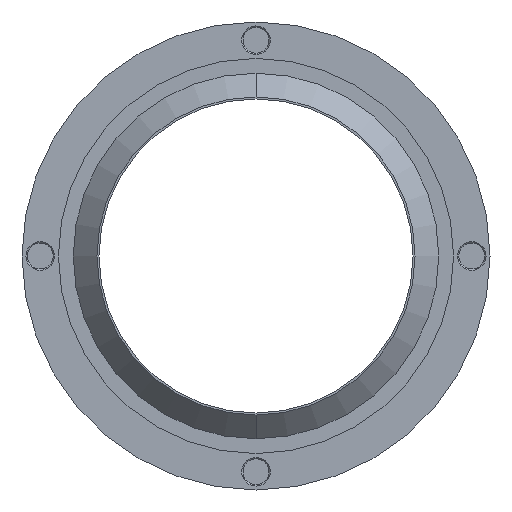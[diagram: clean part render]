
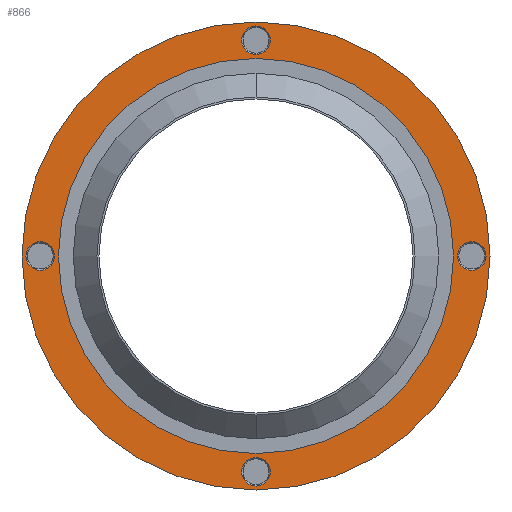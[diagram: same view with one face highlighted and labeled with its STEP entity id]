
A CAD part, front view. The second image highlights one B-rep face of the part: STEP entity #866.
In plain terms, the highlighted planar face has unit normal (0, -1, 0).
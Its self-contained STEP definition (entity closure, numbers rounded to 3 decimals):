
#15 = EDGE_CURVE ( 'NONE', #255, #1072, #990, .T. ) ;
#24 = DIRECTION ( 'NONE',  ( 0., 1., 0. ) ) ;
#31 = CARTESIAN_POINT ( 'NONE',  ( 0., 12.413, 29.125 ) ) ;
#44 = DIRECTION ( 'NONE',  ( 0., -1., 0. ) ) ;
#52 = DIRECTION ( 'NONE',  ( 0., -1., 0. ) ) ;
#54 = CIRCLE ( 'NONE', #707, 34.5 ) ;
#61 = AXIS2_PLACEMENT_3D ( 'NONE', #633, #720, #1062 ) ;
#65 = FACE_BOUND ( 'NONE', #601, .T. ) ;
#73 = VERTEX_POINT ( 'NONE', #722 ) ;
#74 = EDGE_CURVE ( 'NONE', #674, #280, #741, .T. ) ;
#82 = EDGE_CURVE ( 'NONE', #73, #794, #126, .T. ) ;
#86 = AXIS2_PLACEMENT_3D ( 'NONE', #215, #141, #591 ) ;
#97 = CARTESIAN_POINT ( 'NONE',  ( 0., 12.413, 0. ) ) ;
#100 = CIRCLE ( 'NONE', #683, 34.5 ) ;
#103 = AXIS2_PLACEMENT_3D ( 'NONE', #883, #446, #455 ) ;
#119 = CARTESIAN_POINT ( 'NONE',  ( 0., 12.413, 0. ) ) ;
#126 = CIRCLE ( 'NONE', #216, 2.1 ) ;
#141 = DIRECTION ( 'NONE',  ( 0., 1., 0. ) ) ;
#213 = DIRECTION ( 'NONE',  ( 0., 0., -1. ) ) ;
#215 = CARTESIAN_POINT ( 'NONE',  ( 31.813, 12.413, 0. ) ) ;
#216 = AXIS2_PLACEMENT_3D ( 'NONE', #728, #461, #628 ) ;
#217 = ORIENTED_EDGE ( 'NONE', *, *, #15, .T. ) ;
#223 = CIRCLE ( 'NONE', #998, 2.1 ) ;
#224 = CARTESIAN_POINT ( 'NONE',  ( 0., 12.413, 34.5 ) ) ;
#227 = CARTESIAN_POINT ( 'NONE',  ( 31.813, 12.413, -2.1 ) ) ;
#230 = VERTEX_POINT ( 'NONE', #304 ) ;
#239 = ORIENTED_EDGE ( 'NONE', *, *, #766, .F. ) ;
#242 = VERTEX_POINT ( 'NONE', #994 ) ;
#255 = VERTEX_POINT ( 'NONE', #227 ) ;
#257 = ORIENTED_EDGE ( 'NONE', *, *, #1101, .F. ) ;
#267 = EDGE_CURVE ( 'NONE', #315, #242, #100, .T. ) ;
#274 = AXIS2_PLACEMENT_3D ( 'NONE', #1036, #693, #425 ) ;
#280 = VERTEX_POINT ( 'NONE', #669 ) ;
#290 = DIRECTION ( 'NONE',  ( 0., 0., -1. ) ) ;
#304 = CARTESIAN_POINT ( 'NONE',  ( -31.813, 12.413, -2.1 ) ) ;
#306 = CIRCLE ( 'NONE', #935, 29.125 ) ;
#315 = VERTEX_POINT ( 'NONE', #224 ) ;
#324 = DIRECTION ( 'NONE',  ( 0., 1., 0. ) ) ;
#330 = ORIENTED_EDGE ( 'NONE', *, *, #427, .T. ) ;
#407 = ORIENTED_EDGE ( 'NONE', *, *, #514, .T. ) ;
#415 = FACE_BOUND ( 'NONE', #587, .T. ) ;
#417 = CIRCLE ( 'NONE', #86, 2.1 ) ;
#419 = EDGE_CURVE ( 'NONE', #1072, #255, #417, .T. ) ;
#425 = DIRECTION ( 'NONE',  ( 0., 0., 1. ) ) ;
#426 = VERTEX_POINT ( 'NONE', #862 ) ;
#427 = EDGE_CURVE ( 'NONE', #242, #315, #54, .T. ) ;
#432 = DIRECTION ( 'NONE',  ( 0., 0., 1. ) ) ;
#434 = CIRCLE ( 'NONE', #1024, 2.1 ) ;
#439 = CARTESIAN_POINT ( 'NONE',  ( 0., 12.413, -31.813 ) ) ;
#446 = DIRECTION ( 'NONE',  ( 0., 1., 0. ) ) ;
#455 = DIRECTION ( 'NONE',  ( 0., 0., 1. ) ) ;
#461 = DIRECTION ( 'NONE',  ( 0., 1., 0. ) ) ;
#486 = CARTESIAN_POINT ( 'NONE',  ( 0., 12.413, 0. ) ) ;
#502 = ORIENTED_EDGE ( 'NONE', *, *, #813, .T. ) ;
#506 = EDGE_LOOP ( 'NONE', ( #217, #888 ) ) ;
#510 = FACE_BOUND ( 'NONE', #647, .T. ) ;
#514 = EDGE_CURVE ( 'NONE', #794, #73, #223, .T. ) ;
#516 = DIRECTION ( 'NONE',  ( 0., 1., 0. ) ) ;
#548 = CARTESIAN_POINT ( 'NONE',  ( -31.813, 12.413, 0. ) ) ;
#573 = DIRECTION ( 'NONE',  ( 0., 0., -1. ) ) ;
#587 = EDGE_LOOP ( 'NONE', ( #239, #257 ) ) ;
#588 = FACE_BOUND ( 'NONE', #854, .T. ) ;
#591 = DIRECTION ( 'NONE',  ( 0., 0., 1. ) ) ;
#597 = CIRCLE ( 'NONE', #849, 2.1 ) ;
#601 = EDGE_LOOP ( 'NONE', ( #641, #502 ) ) ;
#628 = DIRECTION ( 'NONE',  ( 0., 0., 1. ) ) ;
#633 = CARTESIAN_POINT ( 'NONE',  ( 31.813, 12.413, 0. ) ) ;
#641 = ORIENTED_EDGE ( 'NONE', *, *, #672, .T. ) ;
#647 = EDGE_LOOP ( 'NONE', ( #949, #929 ) ) ;
#669 = CARTESIAN_POINT ( 'NONE',  ( 0., 12.413, 29.713 ) ) ;
#672 = EDGE_CURVE ( 'NONE', #230, #861, #597, .T. ) ;
#674 = VERTEX_POINT ( 'NONE', #729 ) ;
#678 = FACE_OUTER_BOUND ( 'NONE', #1104, .T. ) ;
#683 = AXIS2_PLACEMENT_3D ( 'NONE', #486, #52, #213 ) ;
#693 = DIRECTION ( 'NONE',  ( 0., 1., 0. ) ) ;
#702 = CIRCLE ( 'NONE', #978, 29.125 ) ;
#707 = AXIS2_PLACEMENT_3D ( 'NONE', #97, #1048, #961 ) ;
#718 = CARTESIAN_POINT ( 'NONE',  ( 0., 12.413, 0. ) ) ;
#720 = DIRECTION ( 'NONE',  ( 0., 1., 0. ) ) ;
#722 = CARTESIAN_POINT ( 'NONE',  ( 0., 12.413, -29.713 ) ) ;
#723 = CARTESIAN_POINT ( 'NONE',  ( -31.813, 12.413, 0. ) ) ;
#728 = CARTESIAN_POINT ( 'NONE',  ( 0., 12.413, -31.813 ) ) ;
#729 = CARTESIAN_POINT ( 'NONE',  ( 0., 12.413, 33.912 ) ) ;
#730 = CARTESIAN_POINT ( 'NONE',  ( 31.813, 12.413, 2.1 ) ) ;
#734 = CARTESIAN_POINT ( 'NONE',  ( 0., 12.413, -33.912 ) ) ;
#741 = CIRCLE ( 'NONE', #103, 2.1 ) ;
#743 = CIRCLE ( 'NONE', #1063, 2.1 ) ;
#762 = PLANE ( 'NONE',  #274 ) ;
#766 = EDGE_CURVE ( 'NONE', #426, #770, #702, .T. ) ;
#768 = DIRECTION ( 'NONE',  ( 0., 0., 1. ) ) ;
#770 = VERTEX_POINT ( 'NONE', #31 ) ;
#794 = VERTEX_POINT ( 'NONE', #734 ) ;
#809 = DIRECTION ( 'NONE',  ( 0., -1., 0. ) ) ;
#811 = ORIENTED_EDGE ( 'NONE', *, *, #82, .T. ) ;
#813 = EDGE_CURVE ( 'NONE', #861, #230, #434, .T. ) ;
#834 = EDGE_CURVE ( 'NONE', #280, #674, #743, .T. ) ;
#848 = ORIENTED_EDGE ( 'NONE', *, *, #267, .T. ) ;
#849 = AXIS2_PLACEMENT_3D ( 'NONE', #548, #892, #1109 ) ;
#854 = EDGE_LOOP ( 'NONE', ( #407, #811 ) ) ;
#861 = VERTEX_POINT ( 'NONE', #1010 ) ;
#862 = CARTESIAN_POINT ( 'NONE',  ( 0., 12.413, -29.125 ) ) ;
#866 = ADVANCED_FACE ( 'NONE', ( #588, #930, #510, #65, #415, #678 ), #762, .F. ) ;
#883 = CARTESIAN_POINT ( 'NONE',  ( 0., 12.413, 31.813 ) ) ;
#888 = ORIENTED_EDGE ( 'NONE', *, *, #419, .T. ) ;
#892 = DIRECTION ( 'NONE',  ( 0., 1., 0. ) ) ;
#929 = ORIENTED_EDGE ( 'NONE', *, *, #74, .T. ) ;
#930 = FACE_BOUND ( 'NONE', #506, .T. ) ;
#935 = AXIS2_PLACEMENT_3D ( 'NONE', #119, #44, #290 ) ;
#949 = ORIENTED_EDGE ( 'NONE', *, *, #834, .T. ) ;
#961 = DIRECTION ( 'NONE',  ( 0., 0., -1. ) ) ;
#978 = AXIS2_PLACEMENT_3D ( 'NONE', #718, #809, #573 ) ;
#990 = CIRCLE ( 'NONE', #61, 2.1 ) ;
#994 = CARTESIAN_POINT ( 'NONE',  ( 0., 12.413, -34.5 ) ) ;
#998 = AXIS2_PLACEMENT_3D ( 'NONE', #439, #516, #432 ) ;
#1010 = CARTESIAN_POINT ( 'NONE',  ( -31.813, 12.413, 2.1 ) ) ;
#1024 = AXIS2_PLACEMENT_3D ( 'NONE', #723, #24, #1065 ) ;
#1036 = CARTESIAN_POINT ( 'NONE',  ( -34.5, 12.413, 0. ) ) ;
#1048 = DIRECTION ( 'NONE',  ( 0., -1., 0. ) ) ;
#1062 = DIRECTION ( 'NONE',  ( 0., 0., 1. ) ) ;
#1063 = AXIS2_PLACEMENT_3D ( 'NONE', #1100, #324, #768 ) ;
#1065 = DIRECTION ( 'NONE',  ( 0., 0., 1. ) ) ;
#1072 = VERTEX_POINT ( 'NONE', #730 ) ;
#1100 = CARTESIAN_POINT ( 'NONE',  ( 0., 12.413, 31.813 ) ) ;
#1101 = EDGE_CURVE ( 'NONE', #770, #426, #306, .T. ) ;
#1104 = EDGE_LOOP ( 'NONE', ( #330, #848 ) ) ;
#1109 = DIRECTION ( 'NONE',  ( 0., 0., 1. ) ) ;
